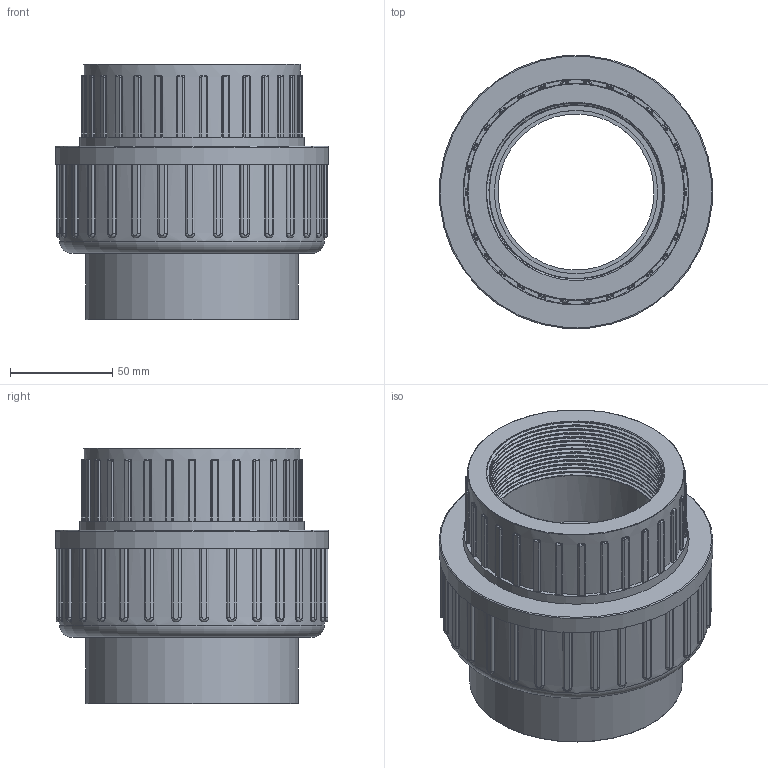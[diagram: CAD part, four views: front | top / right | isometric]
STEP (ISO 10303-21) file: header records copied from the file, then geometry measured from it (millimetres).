
FILE_DESCRIPTION(/* description */ (''),/* implementation_level */ '2;1');
FILE_NAME(/* name */ 'C:\Users\POLYPIPE\Desktop\DATASET INVENTOR\LIBRERIA EFFAST\3D_RACCORDI\RER\3D_RERBOE\3D_RERBOE090I.stp',/* time_stamp */ '2018-01-22T15:58:05+01:00',/* author */ ('POLYPIPE'),/* organization */ (''),/* preprocessor_version */ 'ST-DEVELOPER v16.1',/* originating_system */ 'Autodesk Inventor 2016',/* authorisation */ '');
FILE_SCHEMA (('CONFIG_CONTROL_DESIGN'));
Length unit declared in the file: centimetre
Products named in the file (1): 3D_RERBOE
Bounding box: 133.53 x 133.53 x 125 mm (x, y, z)
Volume: 629590.5 mm3; surface area: 148251.6 mm2
Topology: 1 solids, 1 shells, 582 faces, 1553 edges, 983 vertices
Faces by surface type: cylinder 252, plane 224, bspline 100, torus 4, cone 2
Full cylindrical faces by diameter (mm): 76.5 x1, 80 x1, 84.926 x2, 104.3 x1, 105 x1, 106.2 x1, 109.6 x1, 110.072 x1, 110.8 x1, 130 x1, 134 x1
Entity records: 30274 total; most frequent: CARTESIAN_POINT 15427, ORIENTED_EDGE 3064, DIRECTION 2956, EDGE_CURVE 1532, AXIS2_PLACEMENT_3D 1085, VERTEX_POINT 979, LINE 786, VECTOR 786
